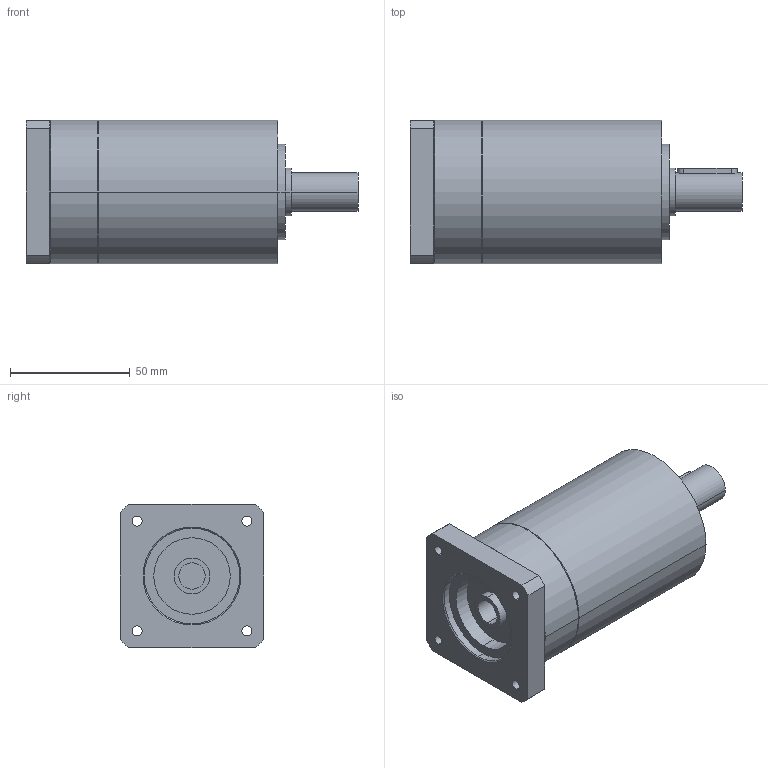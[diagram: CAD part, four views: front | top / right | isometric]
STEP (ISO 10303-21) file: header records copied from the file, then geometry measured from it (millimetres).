
FILE_DESCRIPTION(('CoCreate Modeling STEP Export'),'2;1');
FILE_NAME('GPR75_ig-9-12-16-20-24-30-36_16_B14_11_P32.stp','2014-08-25T16:01:26',(''),(''),'CoCreate Modeling STEP processor for AP214 (Solid Model)','CoCreate Modeling 16.00C 25-Feb-2009 (C) Parametric Technology GmbH','');
FILE_SCHEMA(('AUTOMOTIVE_DESIGN { 1 0 10303 214 1 1 1 1 }'));
Length unit declared in the file: millimetre
Products named in the file (2): GPR75_ig-9-12-16-20-24-30-36_16_B14_11_P32
Assembly tree (1 placements, depth 2):
  GPR75_ig-9-12-16-20-24-30-36_16_B14_11_P32
    GPR75_ig-9-12-16-20-24-30-36_16_B14_11_P32
Bounding box: 138.9 x 60 x 60 mm (x, y, z)
Volume: 303605.8 mm3; surface area: 32818.2 mm2
Topology: 1 solids, 1 shells, 72 faces, 192 edges, 134 vertices
Faces by surface type: cylinder 42, plane 22, cone 8
Entity records: 1979 total; most frequent: ORIENTED_EDGE 380, CARTESIAN_POINT 366, DIRECTION 268, EDGE_CURVE 190, VERTEX_POINT 134, AXIS2_PLACEMENT_3D 100, EDGE_LOOP 94, FACE_OUTER_BOUND 72
